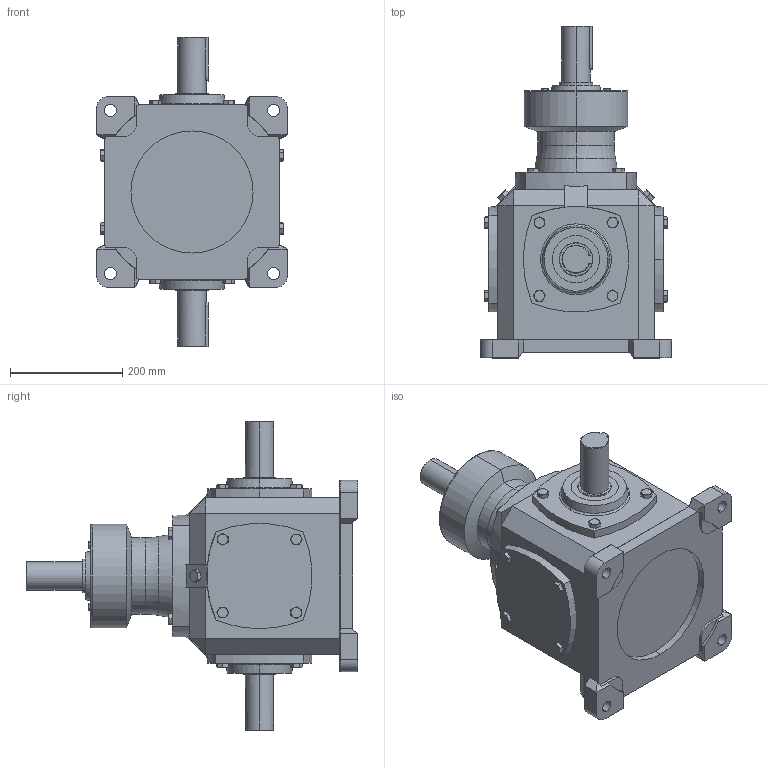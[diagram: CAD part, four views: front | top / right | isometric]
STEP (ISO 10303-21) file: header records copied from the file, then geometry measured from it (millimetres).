
FILE_DESCRIPTION (( 'STEP AP203' ), '1' );
FILE_NAME ('TC12-1-WS1-V5.step', '2018-07-13T06:15:52', ( 'IT Division' ), ( 'IT' ), 'SwSTEP 2.0', 'SolidWorks 2016', '' );
FILE_SCHEMA (( 'CONFIG_CONTROL_DESIGN' ));
Length unit declared in the file: millimetre
Products named in the file (1): TC12-1-WS1-V5
Bounding box: 340 x 590 x 550 mm (x, y, z)
Volume: 29234162.4 mm3; surface area: 903130.6 mm2
Topology: 2 solids, 2 shells, 604 faces, 1447 edges, 886 vertices
Faces by surface type: plane 300, cone 199, cylinder 93, torus 12
Entity records: 18627 total; most frequent: CARTESIAN_POINT 5017, ORIENTED_EDGE 2894, DIRECTION 2681, EDGE_CURVE 1447, AXIS2_PLACEMENT_3D 986, VERTEX_POINT 886, LINE 709, VECTOR 709
